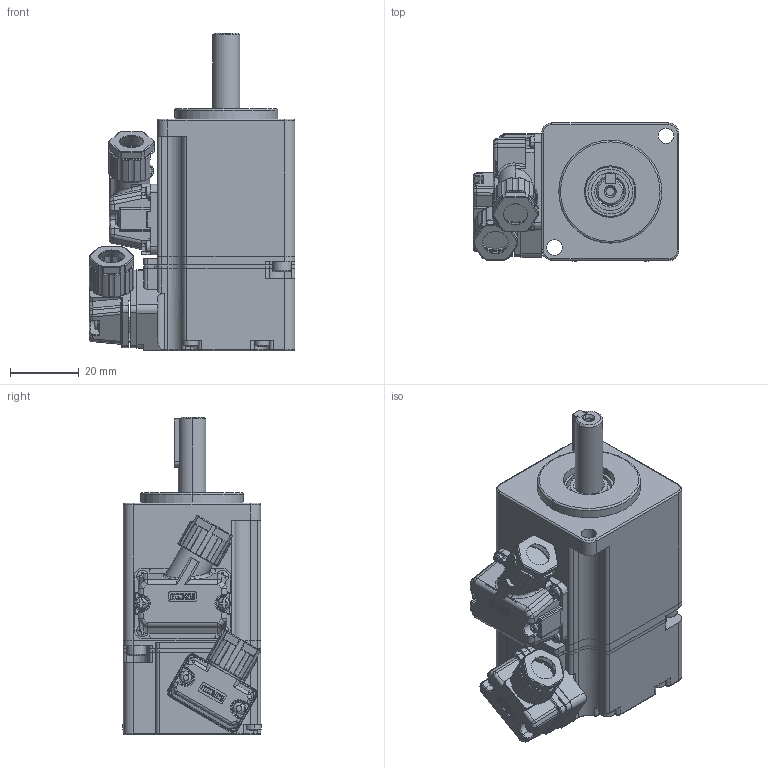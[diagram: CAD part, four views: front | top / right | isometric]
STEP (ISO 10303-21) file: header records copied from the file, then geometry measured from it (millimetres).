
FILE_DESCRIPTION (( 'STEP AP203' ), '1' );
FILE_NAME ('WB40ST-M00130总装-插拔式-2024(新联款插拔).STEP', '2024-11-08T09:17:45', ( 'lvbing' ), ( 'WG' ), 'SwSTEP 2.0', 'SolidWorks 2018', '' );
FILE_SCHEMA (( 'CONFIG_CONTROL_DESIGN' ));
Length unit declared in the file: millimetre
Products named in the file (2): WB40ST-M00130总装-插拔式-2024(新联款插拔)
Bounding box: 59.95 x 40.43 x 92.5 mm (x, y, z)
Surface area: 22440.6 mm2 (no closed solid volume)
Topology: 0 solids, 27 shells, 1219 faces, 4240 edges, 2913 vertices
Faces by surface type: cylinder 448, plane 448, torus 144, bspline 126, sphere 36, cone 17
Entity records: 50038 total; most frequent: CARTESIAN_POINT 15557, ORIENTED_EDGE 6973, DIRECTION 6699, EDGE_CURVE 4232, VERTEX_POINT 2913, AXIS2_PLACEMENT_3D 2404, LINE 1891, VECTOR 1891
